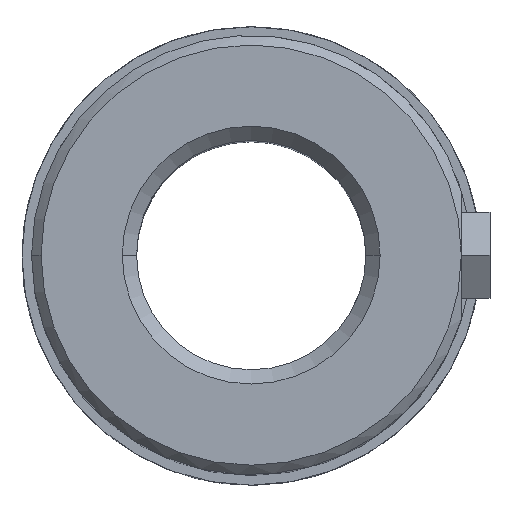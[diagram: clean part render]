
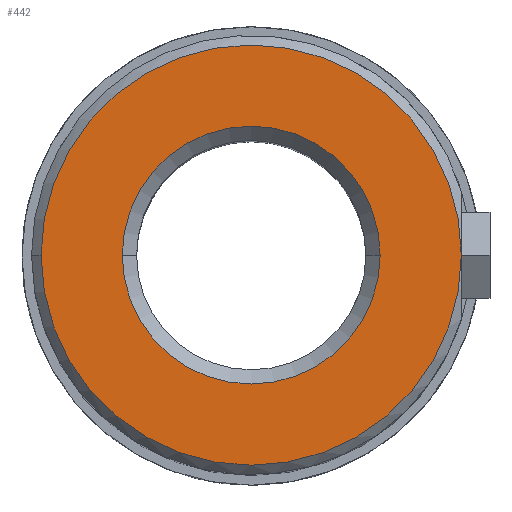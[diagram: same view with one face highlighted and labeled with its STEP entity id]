
A CAD part, top view. The second image highlights one B-rep face of the part: STEP entity #442.
In plain terms, the highlighted planar face has unit normal (0, 0, 1).
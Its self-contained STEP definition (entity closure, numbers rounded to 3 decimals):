
#324=CARTESIAN_POINT('Axis2P3D Location',(0.,0.,56.)) ;
#328=CARTESIAN_POINT('Vertex',(13.5,0.,56.)) ;
#330=CARTESIAN_POINT('Vertex',(-13.5,0.,56.)) ;
#386=CARTESIAN_POINT('Axis2P3D Location',(0.,0.,56.)) ;
#415=CARTESIAN_POINT('Axis2P3D Location',(13.5,0.,56.)) ;
#420=CARTESIAN_POINT('Axis2P3D Location',(0.,0.,56.)) ;
#424=CARTESIAN_POINT('Vertex',(22.,0.,56.)) ;
#426=CARTESIAN_POINT('Vertex',(-22.,0.,56.)) ;
#429=CARTESIAN_POINT('Axis2P3D Location',(0.,0.,56.)) ;
#325=DIRECTION('Axis2P3D Direction',(0.,-0.,1.)) ;
#387=DIRECTION('Axis2P3D Direction',(0.,-0.,1.)) ;
#416=DIRECTION('Axis2P3D Direction',(0.,-0.,1.)) ;
#417=DIRECTION('Axis2P3D XDirection',(1.,0.,0.)) ;
#421=DIRECTION('Axis2P3D Direction',(0.,-0.,1.)) ;
#430=DIRECTION('Axis2P3D Direction',(0.,-0.,1.)) ;
#326=AXIS2_PLACEMENT_3D('Circle Axis2P3D',#324,#325,$) ;
#388=AXIS2_PLACEMENT_3D('Circle Axis2P3D',#386,#387,$) ;
#418=AXIS2_PLACEMENT_3D('Plane Axis2P3D',#415,#416,#417) ;
#422=AXIS2_PLACEMENT_3D('Circle Axis2P3D',#420,#421,$) ;
#431=AXIS2_PLACEMENT_3D('Circle Axis2P3D',#429,#430,$) ;
#435=ORIENTED_EDGE('',*,*,#428,.T.) ;
#436=ORIENTED_EDGE('',*,*,#433,.T.) ;
#439=ORIENTED_EDGE('',*,*,#390,.F.) ;
#440=ORIENTED_EDGE('',*,*,#332,.F.) ;
#441=FACE_BOUND('',#438,.T.) ;
#442=ADVANCED_FACE('742-24',(#437,#441),#419,.T.) ;
#327=CIRCLE('generated circle',#326,13.5) ;
#389=CIRCLE('generated circle',#388,13.5) ;
#423=CIRCLE('generated circle',#422,22.) ;
#432=CIRCLE('generated circle',#431,22.) ;
#332=EDGE_CURVE('',#329,#331,#327,.T.) ;
#390=EDGE_CURVE('',#331,#329,#389,.T.) ;
#428=EDGE_CURVE('',#425,#427,#423,.T.) ;
#433=EDGE_CURVE('',#427,#425,#432,.T.) ;
#434=EDGE_LOOP('',(#435,#436)) ;
#438=EDGE_LOOP('',(#439,#440)) ;
#437=FACE_OUTER_BOUND('',#434,.T.) ;
#419=PLANE('Plane',#418) ;
#329=VERTEX_POINT('',#328) ;
#331=VERTEX_POINT('',#330) ;
#425=VERTEX_POINT('',#424) ;
#427=VERTEX_POINT('',#426) ;
